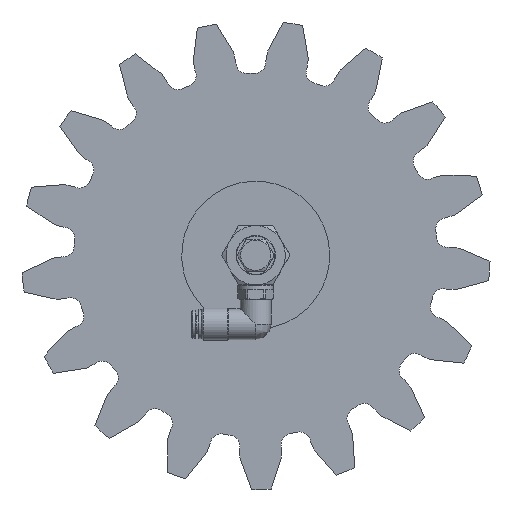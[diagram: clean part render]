
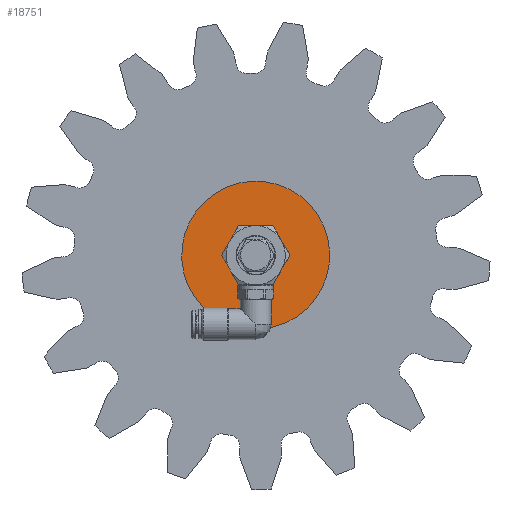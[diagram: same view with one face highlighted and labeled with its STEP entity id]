
A CAD part, front view. The second image highlights one B-rep face of the part: STEP entity #18751.
In plain terms, the highlighted planar face has unit normal (0, -1, 0) as drawn and (0, 0, 1) by its records, which use the part's own axes.
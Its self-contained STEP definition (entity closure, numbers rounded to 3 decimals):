
#956 = PLANE ( 'NONE',  #33123 ) ;
#1765 = AXIS2_PLACEMENT_3D ( 'NONE', #20094, #11993, #26983 ) ;
#8911 = CARTESIAN_POINT ( 'NONE',  ( 5.286, 0., 0. ) ) ;
#11111 = CARTESIAN_POINT ( 'NONE',  ( 0., 0., 0. ) ) ;
#11993 = DIRECTION ( 'NONE',  ( 0., 0., 1. ) ) ;
#12493 = CARTESIAN_POINT ( 'NONE',  ( 0., 30., 0. ) ) ;
#13369 = ORIENTED_EDGE ( 'NONE', *, *, #22991, .T. ) ;
#14551 = EDGE_LOOP ( 'NONE', ( #24472 ) ) ;
#14965 = FACE_BOUND ( 'NONE', #14551, .T. ) ;
#18751 = ADVANCED_FACE ( 'NONE', ( #14965, #45971 ), #956, .F. ) ;
#19918 = CIRCLE ( 'NONE', #30894, 30. ) ;
#20094 = CARTESIAN_POINT ( 'NONE',  ( 0., 0., 0. ) ) ;
#22895 = DIRECTION ( 'NONE',  ( 0., 0., 1. ) ) ;
#22991 = EDGE_CURVE ( 'NONE', #34246, #34246, #19918, .T. ) ;
#24472 = ORIENTED_EDGE ( 'NONE', *, *, #46347, .F. ) ;
#26983 = DIRECTION ( 'NONE',  ( 1., 0., 0. ) ) ;
#28569 = VERTEX_POINT ( 'NONE', #8911 ) ;
#30300 = CARTESIAN_POINT ( 'NONE',  ( 30., 0., 0. ) ) ;
#30894 = AXIS2_PLACEMENT_3D ( 'NONE', #11111, #22895, #47859 ) ;
#31412 = DIRECTION ( 'NONE',  ( 0., 0., -1. ) ) ;
#33123 = AXIS2_PLACEMENT_3D ( 'NONE', #12493, #31412, #35367 ) ;
#34246 = VERTEX_POINT ( 'NONE', #30300 ) ;
#35367 = DIRECTION ( 'NONE',  ( -1., 0., 0. ) ) ;
#44568 = EDGE_LOOP ( 'NONE', ( #13369 ) ) ;
#45971 = FACE_OUTER_BOUND ( 'NONE', #44568, .T. ) ;
#46347 = EDGE_CURVE ( 'NONE', #28569, #28569, #48101, .T. ) ;
#47859 = DIRECTION ( 'NONE',  ( 1., 0., 0. ) ) ;
#48101 = CIRCLE ( 'NONE', #1765, 5.286 ) ;
